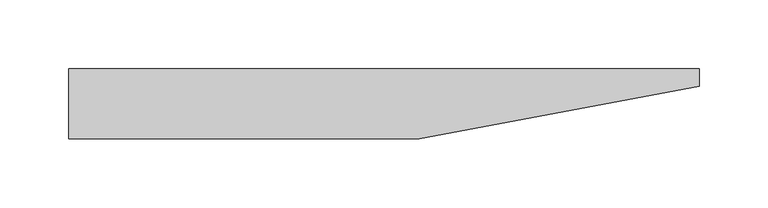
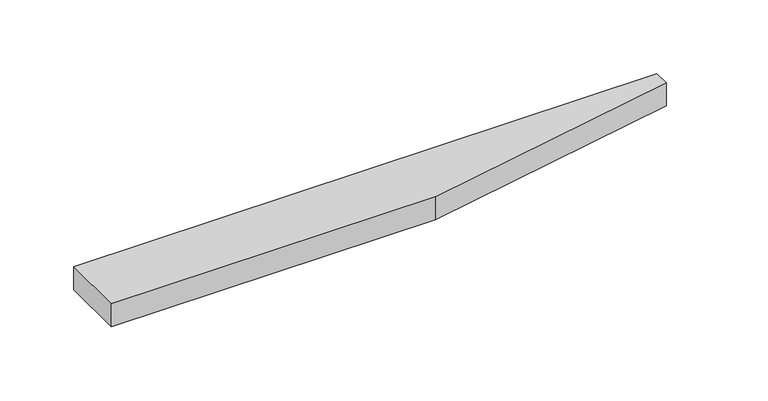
"""IFC4 building model written with IfcOpenShell, lengths in millimetres: proxy geometry, SS LIFT ANGLE_18_RT_OMT_LINAK (NEW)."""

import ifcopenshell
import ifcopenshell.guid

model = None  # the IFC model being written
_history = None  # IfcOwnerHistory: only IFC2X3 demands one
_inside = {}  # id of a spatial element -> (the spatial element, [elements in it])
_under = {}  # id of a project, library or spatial element -> (it, [spatial elements below it])
_declared = {}  # id of a project -> (the project, [libraries it declares])
_typed = {}  # id of a type object -> (the type object, [elements of that type])
_made_of = {}  # id of a material, layer set ... -> (it, [elements and type objects made of it])


def new_model(schema):
    """Start an empty IFC model of exactly this schema.

    Asked for "IFC4X3", IfcOpenShell would pick the latest addendum, in which some entities
    have other attributes; the version numbers below select the first issue.
    IFC2X3 requires an IfcOwnerHistory on every rooted entity: one is made here for all.
    """
    global model, _history
    if schema == "IFC4X3":
        model = ifcopenshell.file(schema_version=(4, 3, 0, 0))
    else:
        model = ifcopenshell.file(schema=schema)
    _inside.clear()
    _under.clear()
    _declared.clear()
    _typed.clear()
    _made_of.clear()
    _history = None
    if model.schema == "IFC2X3":
        org = make("IfcOrganization", Name="unknown")
        user = make(
            "IfcPersonAndOrganization",
            ThePerson=make("IfcPerson", FamilyName="unknown"),
            TheOrganization=org,
        )
        app = make(
            "IfcApplication",
            ApplicationDeveloper=org,
            Version="unknown",
            ApplicationFullName="unknown",
            ApplicationIdentifier="unknown",
        )
        _history = make(
            "IfcOwnerHistory",
            OwningUser=user,
            OwningApplication=app,
            ChangeAction="ADDED",
            CreationDate=0,
        )
    return model


def make(cls, **values):
    """One entity of the class cls with the attributes given. An attribute that is None is left unset."""
    return model.create_entity(
        cls, **{name: value for name, value in values.items() if value is not None}
    )


def rooted(cls, **values):
    """An entity with a GlobalId (a new one), such as an element, a storey or a relation."""
    return make(cls, GlobalId=ifcopenshell.guid.new(), OwnerHistory=_history, **values)


def si_unit(unit_type, name, prefix=None):
    """IfcSIUnit, for example si_unit("LENGTHUNIT", "METRE", prefix="MILLI")."""
    return make("IfcSIUnit", UnitType=unit_type, Prefix=prefix, Name=name)


def assignment(units):
    """IfcUnitAssignment: the units of a project."""
    return None if units is None else make("IfcUnitAssignment", Units=units)


def point(xyz):
    """IfcCartesianPoint."""
    return None if xyz is None else make("IfcCartesianPoint", Coordinates=xyz)


def direction(xyz):
    """IfcDirection."""
    return None if xyz is None else make("IfcDirection", DirectionRatios=xyz)


def frame(location, z_axis=None, x_axis=None):
    """IfcAxis2Placement3D, a coordinate frame: its origin and axes. An axis left out is left unset."""
    return make(
        "IfcAxis2Placement3D",
        Location=point(location),
        Axis=direction(z_axis),
        RefDirection=direction(x_axis),
    )


def origin():
    """The frame at (0, 0, 0) with its axes left unset."""
    return frame((0.0, 0.0, 0.0))


def origin_with_axes():
    """The frame at (0, 0, 0) with the z axis (0, 0, 1) and the x axis (1, 0, 0) written out."""
    return frame((0.0, 0.0, 0.0), z_axis=(0.0, 0.0, 1.0), x_axis=(1.0, 0.0, 0.0))


def place(relative_to, where):
    """IfcLocalPlacement: puts the frame where relative to a parent placement (None: the world)."""
    return make(
        "IfcLocalPlacement", PlacementRelTo=relative_to, RelativePlacement=where
    )


def context(
    kind, dimensions, precision=None, world=None, true_north=None, identifier=None
):
    """IfcGeometricRepresentationContext, for example the 3D "Model" context."""
    return make(
        "IfcGeometricRepresentationContext",
        ContextIdentifier=identifier,
        ContextType=kind,
        CoordinateSpaceDimension=dimensions,
        Precision=precision,
        WorldCoordinateSystem=world,
        TrueNorth=true_north,
    )


def project(units=None, contexts=None):
    """IfcProject with its units and contexts."""
    return rooted(
        "IfcProject",
        Name="project",
        RepresentationContexts=contexts,
        UnitsInContext=assignment(units),
    )


def spatial(cls, under=None, at=None, **own):
    """A site, building, storey or space (cls), placed at a placement, below another one or the project."""
    s = rooted(cls, ObjectPlacement=at, **own)
    if under is not None:
        _under.setdefault(under.id(), (under, []))[1].append(s)
    return s


def polyline(points):
    """IfcPolyline through the points."""
    return make("IfcPolyline", Points=[point(p) for p in points])


def outline(outer, holes=None, kind="AREA"):
    """IfcArbitraryClosedProfileDef: a profile drawn as a closed curve; with holes, ...WithVoids."""
    if holes is None:
        return make("IfcArbitraryClosedProfileDef", ProfileType=kind, OuterCurve=outer)
    return make(
        "IfcArbitraryProfileDefWithVoids",
        ProfileType=kind,
        OuterCurve=outer,
        InnerCurves=holes,
    )


def extrude(swept, where, along, depth):
    """IfcExtrudedAreaSolid: the profile swept, set in the frame where, extruded along a direction by depth."""
    return make(
        "IfcExtrudedAreaSolid",
        SweptArea=swept,
        Position=where,
        ExtrudedDirection=direction(along),
        Depth=depth,
    )


def shape(context_of_items, identifier, shape_type, items):
    """IfcShapeRepresentation: the items that make up one representation, for example the "Body"."""
    return make(
        "IfcShapeRepresentation",
        ContextOfItems=context_of_items,
        RepresentationIdentifier=identifier,
        RepresentationType=shape_type,
        Items=items,
    )


def source(mapping_origin, context_of_items, identifier, shape_type, items):
    """IfcRepresentationMap: a shape defined once, which mapped items show again and again."""
    return make(
        "IfcRepresentationMap",
        MappingOrigin=mapping_origin,
        MappedRepresentation=shape(context_of_items, identifier, shape_type, items),
    )


def transform(
    local_origin,
    x_axis=None,
    y_axis=None,
    z_axis=None,
    scale=None,
    scale2=None,
    scale3=None,
    uniform=True,
):
    """IfcCartesianTransformationOperator3D, or its non-uniform kind. x_axis, y_axis, z_axis: its Axis1, 2, 3."""
    if uniform:
        return make(
            "IfcCartesianTransformationOperator3D",
            Axis1=direction(x_axis),
            Axis2=direction(y_axis),
            LocalOrigin=point(local_origin),
            Scale=scale,
            Axis3=direction(z_axis),
        )
    return make(
        "IfcCartesianTransformationOperator3DnonUniform",
        Axis1=direction(x_axis),
        Axis2=direction(y_axis),
        LocalOrigin=point(local_origin),
        Scale=scale,
        Axis3=direction(z_axis),
        Scale2=scale2,
        Scale3=scale3,
    )


def mapped(mapping_source, mapping_target):
    """IfcMappedItem: shows the shape of a source again, moved by a transform."""
    return make(
        "IfcMappedItem", MappingSource=mapping_source, MappingTarget=mapping_target
    )


def made_of(thing, what):
    """Note that an element or type object is made of a material, layer set ...; save() writes the relation."""
    if what is not None:
        _made_of.setdefault(what.id(), (what, []))[1].append(thing)
    return thing


def element(
    cls,
    number,
    at=None,
    inside=None,
    cuts=None,
    type_object=None,
    material=None,
    context=None,
    identifier="Body",
    shape_type=None,
    held_by="IfcProductDefinitionShape",
    body=None,
    shapes=None,
    **own,
):
    """One element of the class cls, such as IfcWall. Its Tag is "e" and its number.

    at: its placement. inside: the storey or other place that contains it. cuts: it is an
    opening in that element (IfcRelVoidsElement). A single representation is given by context,
    identifier, shape_type and body (its items); several are given by shapes. held_by: the class
    of the entity that holds the representations. save() writes the other relations.
    """
    e = rooted(cls, Tag="e%d" % number, ObjectPlacement=at, **own)
    if body is not None:
        shapes = [shape(context, identifier, shape_type, body)]
    if shapes is not None:
        e.Representation = make(held_by, Representations=shapes)
    if inside is not None:
        _inside.setdefault(inside.id(), (inside, []))[1].append(e)
    if cuts is not None:
        rooted(
            "IfcRelVoidsElement", RelatingBuildingElement=cuts, RelatedOpeningElement=e
        )
    if type_object is not None:
        _typed.setdefault(type_object.id(), (type_object, []))[1].append(e)
    return made_of(e, material)


def aggregate(whole, parts):
    """IfcRelAggregates: a whole, such as a stair, and the parts it consists of."""
    return rooted("IfcRelAggregates", RelatingObject=whole, RelatedObjects=parts)


def save(model, path):
    """Write the relations noted so far, then the file.

    IfcRelAggregates (storeys below a building ...), IfcRelContainedInSpatialStructure (elements
    in a storey), IfcRelDefinesByType, IfcRelAssociatesMaterial and IfcRelDeclares: one each for
    every whole, place, type object, material and project.
    """
    for whole, parts in _under.values():
        aggregate(whole, parts)
    for where, things in _inside.values():
        rooted(
            "IfcRelContainedInSpatialStructure",
            RelatedElements=things,
            RelatingStructure=where,
        )
    for kind, things in _typed.values():
        rooted("IfcRelDefinesByType", RelatedObjects=things, RelatingType=kind)
    for what, things in _made_of.values():
        rooted("IfcRelAssociatesMaterial", RelatedObjects=things, RelatingMaterial=what)
    for by, libraries in _declared.values():
        rooted("IfcRelDeclares", RelatingContext=by, RelatedDefinitions=libraries)
    model.write(path)


def generic_models_ddd470e9(model_context):
    return source(origin(), model_context, "Body", "SweptSolid", [
        extrude(outline(polyline([(0.0, -50.8), (0.0, 0.0), (457.2, 0.0), (457.2, -12.7), (254.0, -50.8), (0.0, -50.8)])), origin_with_axes(), (0.0, 0.0, 1.0), 19.05),
    ])


if __name__ == "__main__":
    model = new_model("IFC4")
    model_context = context("Model", 3, world=origin())
    ifc_project = project(units=[si_unit("LENGTHUNIT", "METRE", prefix="MILLI")], contexts=[model_context])
    site = spatial("IfcSite", under=ifc_project)
    building = spatial("IfcBuilding", under=site)
    placement = place(None, origin())
    generic_models_shape = generic_models_ddd470e9(model_context)
    element("IfcBuildingElementProxy", 1, Name="SS LIFT ANGLE_18_RT_OMT_LINAK (NEW)", ObjectType="SS LIFT ANGLE_18_RT_OMT_LINAK (NEW)", at=placement, inside=building, context=model_context, shape_type="MappedRepresentation", body=[
        mapped(generic_models_shape, transform((0.0, 0.0, 0.0), x_axis=(1.0, 0.0, 0.0), y_axis=(0.0, 1.0, 0.0), z_axis=(0.0, 0.0, 1.0))),
    ])
    save(model, "model.ifc")
